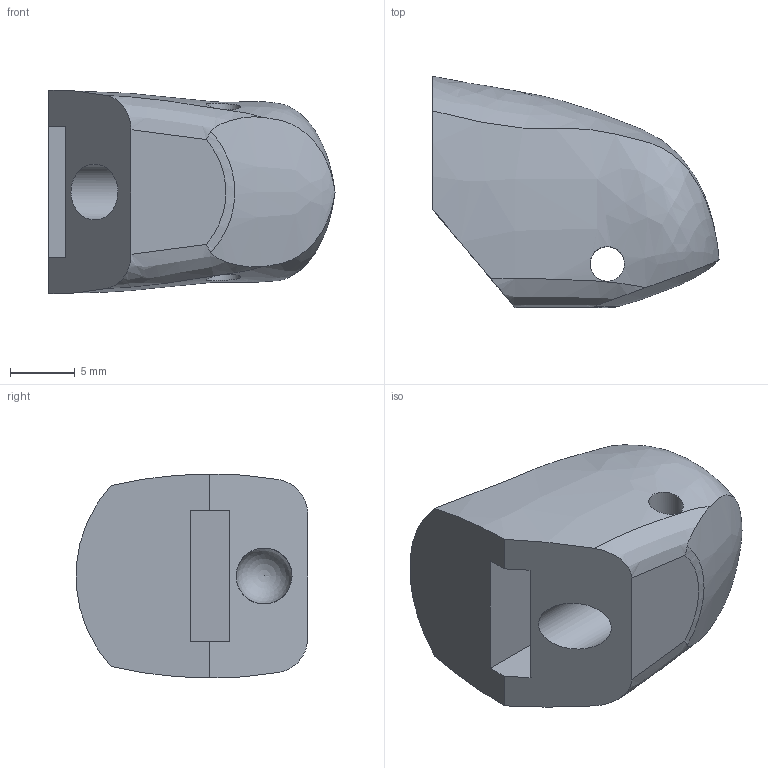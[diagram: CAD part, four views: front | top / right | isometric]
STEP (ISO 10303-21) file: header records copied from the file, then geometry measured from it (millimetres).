
FILE_DESCRIPTION(/* description */ (''),/* implementation_level */ '2;1');
FILE_NAME(/* name */ 'C:/Users/Ryan/Documents/AIO Robotics/CAD Files/FingerTip.step',/* time_stamp */ '2017-02-04T20:50:11-08:00',/* author */ (''),/* organization */ (''),/* preprocessor_version */ 'ST-DEVELOPER v16.5',/* originating_system */ 'Autodesk Translation Framework v5.2.0.2920',/* authorisation */ '');
FILE_SCHEMA (('AUTOMOTIVE_DESIGN { 1 0 10303 214 3 1 1 }'));
Length unit declared in the file: inch
Products named in the file (1): FingerTip v32
Bounding box: 22.1 x 17.86 x 15.75 mm (x, y, z)
Volume: 3302.1 mm3; surface area: 1733 mm2
Topology: 1 solids, 1 shells, 19 faces, 63 edges, 42 vertices
Faces by surface type: plane 8, bspline 7, cylinder 3, sphere 1
Full cylindrical faces by diameter (mm): 2.667 x2, 4.318 x1
Entity records: 1235 total; most frequent: CARTESIAN_POINT 784, ORIENTED_EDGE 100, DIRECTION 57, EDGE_CURVE 50, VERTEX_POINT 37, EDGE_LOOP 27, B_SPLINE_CURVE_WITH_KNOTS 26, AXIS2_PLACEMENT_3D 20
